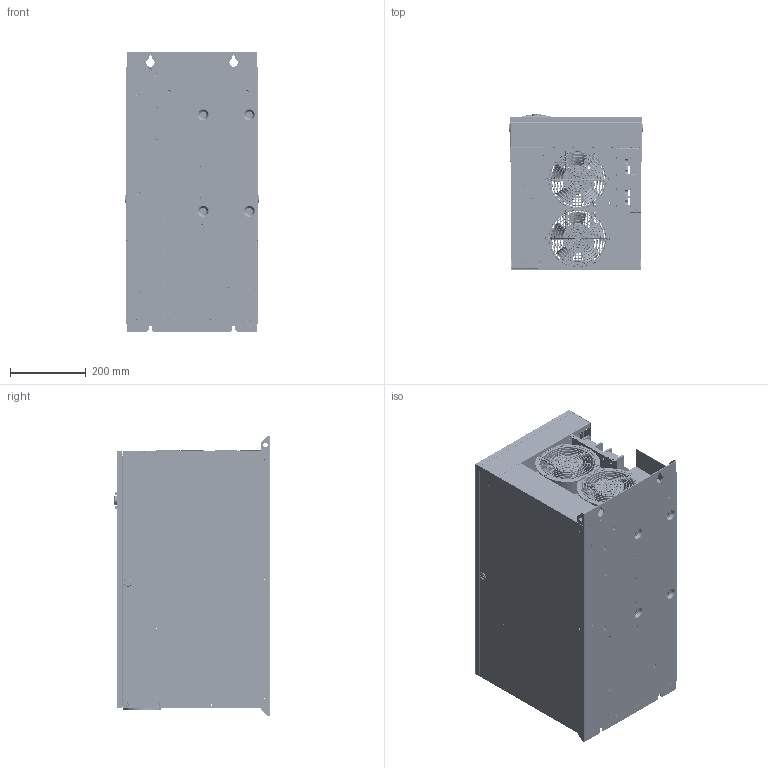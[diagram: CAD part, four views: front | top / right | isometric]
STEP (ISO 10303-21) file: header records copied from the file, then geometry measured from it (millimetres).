
FILE_DESCRIPTION(/* description */ (''),/* implementation_level */ '2;1');
FILE_NAME(/* name */ 'C:\Users\U390257\OneDrive - Danfoss\Documents\Работа\Текущие задачи\2022.04.26 Veichi 3D\Готовые модели\ac300-t3-132_160-3d\ac300-t3-132_160-3d.stp',/* time_stamp */ '2022-04-28T12:30:02+03:00',/* author */ ('U390257'),/* organization */ (''),/* preprocessor_version */ 'ST-DEVELOPER v18.1',/* originating_system */ 'Autodesk Inventor 2020',/* authorisation */ '');
FILE_SCHEMA (('AUTOMOTIVE_DESIGN { 1 0 10303 214 3 1 1 }'));
Products named in the file (15): ac300-t3-132_160-3d; AC300-T3-160G-D_ASM; AC300-T3-160G-P_ASM; AC300-T3-160G-P001_ASM; AC300-T3-160G-P014_ASM; AC300-T3-160G-P020_ASM; AC300-T3-160G-P021_ASM; display_2; knopka_pusk; knopka_stop; knopka_prg2; knopka_jog_rev; tablichka3_gc_v_a; gc_v_a; VEDAVFD
Assembly tree (14 placements, depth 3):
  ac300-t3-132_160-3d
    AC300-T3-160G-D_ASM
    AC300-T3-160G-P_ASM
      AC300-T3-160G-P001_ASM
      AC300-T3-160G-P014_ASM
      AC300-T3-160G-P020_ASM
      AC300-T3-160G-P021_ASM
    display_2
      knopka_pusk
      knopka_stop
      knopka_prg2
      knopka_jog_rev
    tablichka3_gc_v_a
      gc_v_a
    VEDAVFD
Bounding box: 355.5 x 412.77 x 738 mm (x, y, z)
Volume: 4449256.6 mm3; surface area: 4752077.6 mm2
Topology: 226 solids, 244 shells, 18935 faces, 50887 edges, 33480 vertices
Faces by surface type: plane 13089, bspline 2640, cylinder 2367, cone 415, torus 289, sphere 135
Full cylindrical faces by diameter (mm): 0.1 x4, 0.5 x8, 0.8 x30, 0.9 x8, 1 x19, 1.08 x1, 1.2 x2, 1.5 x4, 1.6 x2, 1.625 x2, 1.8 x8, 2 x30, 2.2 x12, 2.5 x32, 2.6 x6, 2.65 x12, 3 x11, 3.2 x1, 3.5 x1, 3.6 x22, 3.8 x20, 4 x93, 4.2 x92, 4.39 x2, 4.5 x20, 4.99 x4, 5 x30, 5.38 x22, 5.39 x6, 5.4 x57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
Entity records: 664848 total; most frequent: CARTESIAN_POINT 184359, ORIENTED_EDGE 101437, DIRECTION 90876, EDGE_CURVE 50877, LINE 37174, VECTOR 37174, VERTEX_POINT 33480, AXIS2_PLACEMENT_3D 26851
